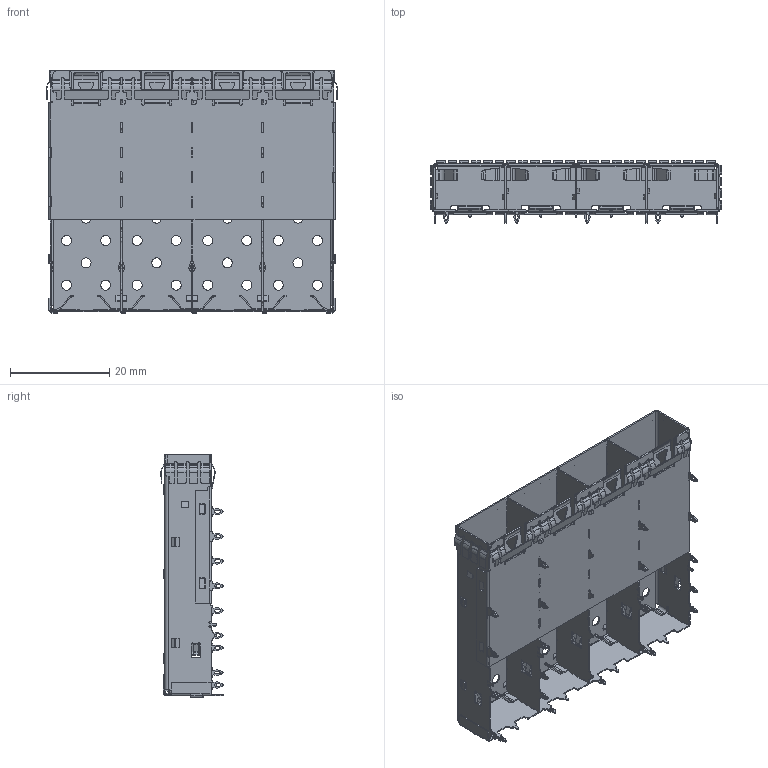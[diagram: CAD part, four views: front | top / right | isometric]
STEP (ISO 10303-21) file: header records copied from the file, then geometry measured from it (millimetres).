
FILE_DESCRIPTION((''),'2;1');
FILE_NAME('CP_TOPSHELL141201___2_1','2023-01-09T',('08020'),(''),'CREO PARAMETRIC BY PTC INC, 2017170','CREO PARAMETRIC BY PTC INC, 2017170','');
FILE_SCHEMA(('AP203_CONFIGURATION_CONTROLLED_3D_DESIGN_OF_MECHANICAL_PARTS_AND_ASSEMBLIES_MIM_LF { 1 0 10303 403 2 1 2 }'));
Products named in the file (1): CP_TOPSHELL141201___2_1
Bounding box: 58.75 x 12.55 x 49 mm (x, y, z)
Volume: 1923.9 mm3; surface area: 15860 mm2
Topology: 1 solids, 1 shells, 3069 faces, 9084 edges, 5930 vertices
Faces by surface type: cylinder 1552, plane 1497, bspline 20
Entity records: 132218 total; most frequent: CARTESIAN_POINT 20060, ORIENTED_EDGE 18168, DIRECTION 17865, PRESENTATION_STYLE_ASSIGNMENT 9085, STYLED_ITEM 9085, CURVE_STYLE 9084, EDGE_CURVE 9084, AXIS2_PLACEMENT_3D 6022
